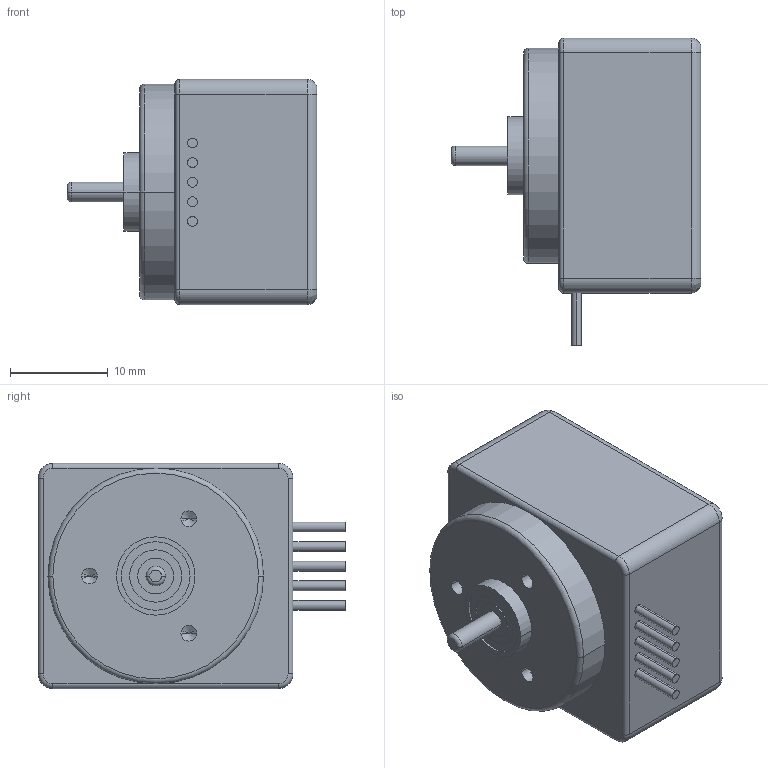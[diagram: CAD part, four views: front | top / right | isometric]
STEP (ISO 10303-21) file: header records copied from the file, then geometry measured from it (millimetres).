
FILE_DESCRIPTION((''),'2;1');
FILE_NAME('1002872','2021-03-26T14:40:52',('mmagvisi'),(''),'CREO PARAMETRIC BY PTC INC, 2020342','CREO PARAMETRIC BY PTC INC, 2020342','');
FILE_SCHEMA(('CONFIG_CONTROL_DESIGN','SHAPE_APPEARANCE_LAYERS_GROUPS'));
Length unit declared in the file: millimetre
Products named in the file (1): 1002872
Bounding box: 25.5 x 31.4 x 23 mm (x, y, z)
Volume: 10068.9 mm3; surface area: 2977.8 mm2
Topology: 1 solids, 1 shells, 76 faces, 164 edges, 97 vertices
Faces by surface type: cylinder 40, plane 18, torus 8, cone 6, bspline 4
Entity records: 2188 total; most frequent: DIRECTION 400, CARTESIAN_POINT 391, ORIENTED_EDGE 316, AXIS2_PLACEMENT_3D 170, EDGE_CURVE 158, CIRCLE 98, VERTEX_POINT 97, EDGE_LOOP 89
